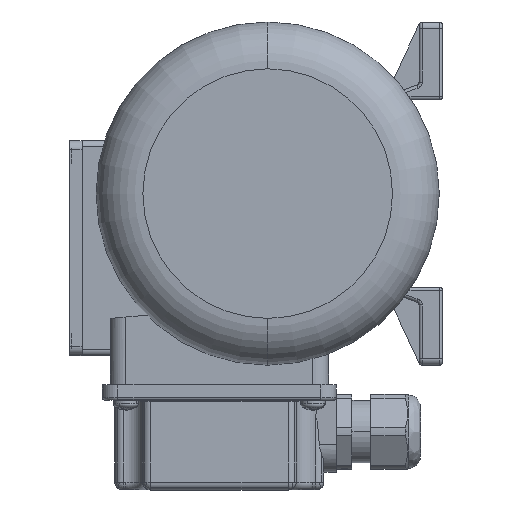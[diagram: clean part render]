
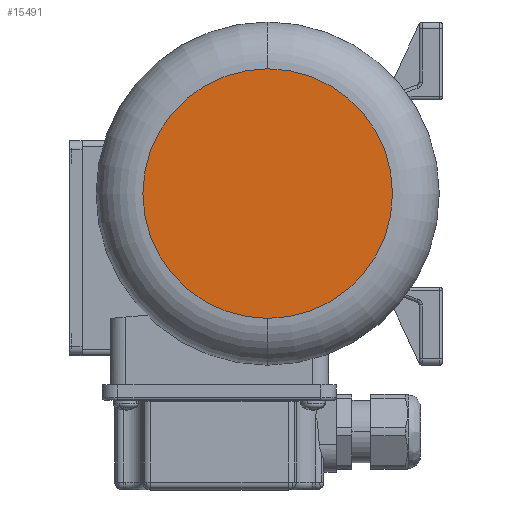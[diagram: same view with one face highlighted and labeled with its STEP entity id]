
A CAD part, left-side view. The second image highlights one B-rep face of the part: STEP entity #15491.
In plain terms, the highlighted planar face has unit normal (-1, 0, 0).
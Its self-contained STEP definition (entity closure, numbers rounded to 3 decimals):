
#1942 = EDGE_CURVE ( 'NONE', #21023, #16399, #7608, .T. ) ;
#1947 = ORIENTED_EDGE ( 'NONE', *, *, #28907, .T. ) ;
#4696 = AXIS2_PLACEMENT_3D ( 'NONE', #9480, #5122, #11791 ) ;
#5122 = DIRECTION ( 'NONE',  ( -1., 0., 0. ) ) ;
#5693 = PLANE ( 'NONE',  #17867 ) ;
#6394 = CARTESIAN_POINT ( 'NONE',  ( 0., 0., 0. ) ) ;
#6500 = ORIENTED_EDGE ( 'NONE', *, *, #1942, .T. ) ;
#7608 = CIRCLE ( 'NONE', #4696, 40. ) ;
#9480 = CARTESIAN_POINT ( 'NONE',  ( 0., 0., 0. ) ) ;
#9686 = DIRECTION ( 'NONE',  ( 1., 0., 0. ) ) ;
#10000 = DIRECTION ( 'NONE',  ( 0., 0., -1. ) ) ;
#11791 = DIRECTION ( 'NONE',  ( 0., 0., -1. ) ) ;
#15045 = CARTESIAN_POINT ( 'NONE',  ( 0., 0., 0. ) ) ;
#15491 = ADVANCED_FACE ( 'NONE', ( #26741 ), #5693, .F. ) ;
#15887 = CARTESIAN_POINT ( 'NONE',  ( 0., 0., 40. ) ) ;
#16399 = VERTEX_POINT ( 'NONE', #15887 ) ;
#17867 = AXIS2_PLACEMENT_3D ( 'NONE', #15045, #9686, #10000 ) ;
#21023 = VERTEX_POINT ( 'NONE', #25162 ) ;
#21158 = CIRCLE ( 'NONE', #22160, 40. ) ;
#22160 = AXIS2_PLACEMENT_3D ( 'NONE', #6394, #22561, #24845 ) ;
#22561 = DIRECTION ( 'NONE',  ( -1., 0., 0. ) ) ;
#24845 = DIRECTION ( 'NONE',  ( 0., 0., -1. ) ) ;
#25162 = CARTESIAN_POINT ( 'NONE',  ( 0., 0., -40. ) ) ;
#26741 = FACE_OUTER_BOUND ( 'NONE', #27999, .T. ) ;
#27999 = EDGE_LOOP ( 'NONE', ( #6500, #1947 ) ) ;
#28907 = EDGE_CURVE ( 'NONE', #16399, #21023, #21158, .T. ) ;
